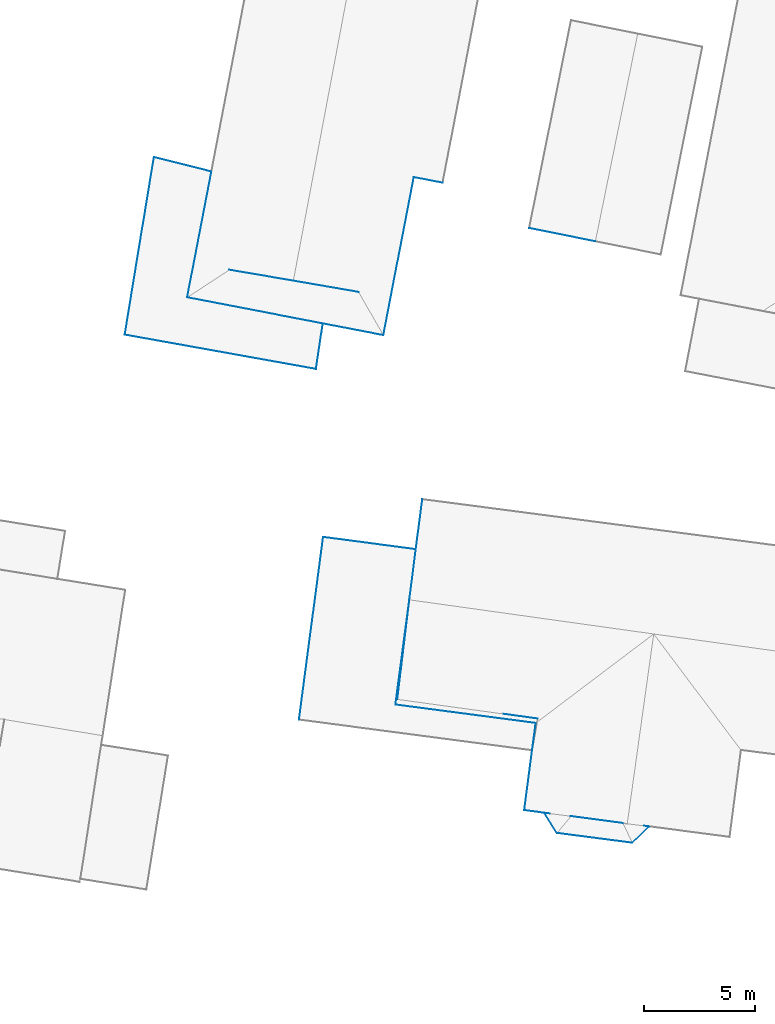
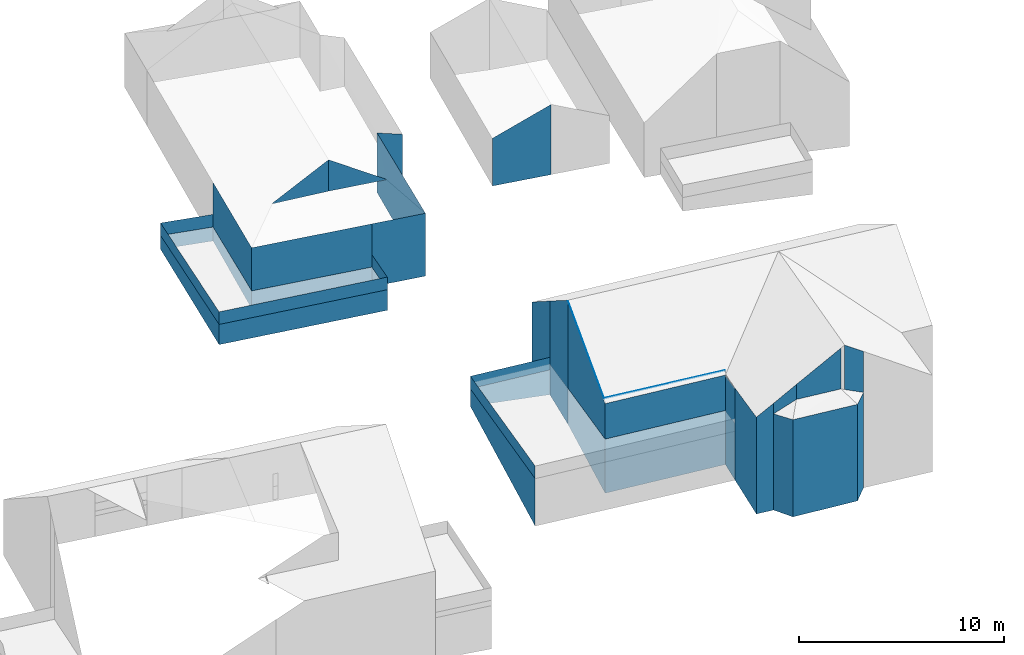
# Not in any storey, part 29 of 57: 47 walls.
"""IFC4 building model written with IfcOpenShell, lengths in metres."""

from ifc_helpers import new_model, entity, si_unit, converted_unit, origin, place, context, subcontext, project, spatial, face_set, surface_model, element, save


model = new_model("IFC4")

# Units and contexts
model_context = context("Model", 3, precision=1e-05, world=origin())
body_context = subcontext(model_context, "Body", "Model", "MODEL_VIEW")
ifc_project = project(units=[converted_unit("PLANEANGLEUNIT", "DEGREE", entity("IfcRatioMeasure", 0.0174532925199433), si_unit("PLANEANGLEUNIT", "RADIAN"), dimensions=[0, 0, 0, 0, 0, 0, 0]), si_unit("AREAUNIT", "SQUARE_METRE"), si_unit("LENGTHUNIT", "METRE")], contexts=[model_context])

# Site, building
site_placement = place(None, origin())
site = spatial("IfcSite", under=ifc_project, at=site_placement, Name="_site")
building_1_placement = place(site_placement, origin())
building_1 = spatial("IfcBuilding", under=site, at=building_1_placement, Name="_building")

# Walls
wall_1_placement = place(building_1_placement, origin())
element("IfcWall", 1, at=wall_1_placement, inside=building_1, Name="Wall", PredefinedType="NOTDEFINED", context=body_context, shape_type="SurfaceModel", body=[
    surface_model("IfcFaceBasedSurfaceModel", [(227.5, 92.046, 112.511), (233.794, 91.179, 112.486), (233.794, 91.179, 112.466), (227.5, 92.046, 112.478)], [face_set([[[0, 1, 2, 3]]])]),
])
wall_2_placement = place(building_1_placement, origin())
element("IfcWall", 2, at=wall_2_placement, inside=building_1, Name="Wall", PredefinedType="NOTDEFINED", context=body_context, shape_type="SurfaceModel", body=[
    surface_model("IfcFaceBasedSurfaceModel", [(228.039, 96.515, 115.44), (227.5, 92.046, 112.511), (227.5, 92.046, 112.478)], [face_set([[[0, 1, 2]]])]),
])
wall_3_placement = place(building_1_placement, origin())
element("IfcWall", 3, at=wall_3_placement, inside=building_1, Name="Wall", PredefinedType="NOTDEFINED", context=body_context, shape_type="SurfaceModel", body=[
    surface_model("IfcFaceBasedSurfaceModel", [(227.414, 91.808, 112.35), (228.039, 96.515, 115.44), (228.039, 96.515, 108.05), (227.414, 91.808, 107.018)], [face_set([[[0, 1, 2, 3]]])]),
])
wall_4_placement = place(building_1_placement, origin())
element("IfcWall", 4, at=wall_4_placement, inside=building_1, Name="Wall", PredefinedType="NOTDEFINED", context=body_context, shape_type="SurfaceModel", body=[
    surface_model("IfcFaceBasedSurfaceModel", [(233.709, 90.98, 112.35), (227.414, 91.808, 112.35), (227.414, 91.808, 107.018), (233.709, 90.98, 107.025)], [face_set([[[0, 1, 2, 3]]])]),
])
wall_5_placement = place(building_1_placement, origin())
element("IfcWall", 5, at=wall_5_placement, inside=building_1, Name="Wall", PredefinedType="NOTDEFINED", context=body_context, shape_type="SurfaceModel", body=[
    surface_model("IfcFaceBasedSurfaceModel", [(233.709, 90.98, 110.24), (233.55, 89.753, 110.25), (233.55, 89.753, 106.893), (233.709, 90.98, 107.025)], [face_set([[[0, 1, 2, 3]]])]),
])
wall_6_placement = place(building_1_placement, origin())
element("IfcWall", 6, at=wall_6_placement, inside=building_1, Name="Wall", PredefinedType="NOTDEFINED", context=body_context, shape_type="SurfaceModel", body=[
    surface_model("IfcFaceBasedSurfaceModel", [(227.414, 91.808, 110.24), (233.709, 90.98, 110.24), (233.709, 90.98, 107.025), (227.414, 91.808, 107.018)], [face_set([[[0, 1, 2, 3]]])]),
])
wall_7_placement = place(building_1_placement, origin())
element("IfcWall", 7, at=wall_7_placement, inside=building_1, Name="Wall", PredefinedType="NOTDEFINED", context=body_context, shape_type="SurfaceModel", body=[
    surface_model("IfcFaceBasedSurfaceModel", [(228.039, 96.515, 110.193), (227.414, 91.808, 110.24), (227.414, 91.808, 107.018), (228.039, 96.515, 108.05)], [face_set([[[0, 1, 2, 3]]])]),
])
wall_8_placement = place(building_1_placement, origin())
element("IfcWall", 8, at=wall_8_placement, inside=building_1, Name="Wall", PredefinedType="NOTDEFINED", context=body_context, shape_type="SurfaceModel", body=[
    surface_model("IfcFaceBasedSurfaceModel", [(228.328, 98.781, 110.17), (228.039, 96.515, 110.193), (228.039, 96.515, 108.05), (228.328, 98.781, 108.338)], [face_set([[[0, 1, 2, 3]]])]),
])
wall_9_placement = place(building_1_placement, origin())
element("IfcWall", 9, at=wall_9_placement, inside=building_1, Name="Wall", PredefinedType="NOTDEFINED", context=body_context, shape_type="SurfaceModel", body=[
    surface_model("IfcFaceBasedSurfaceModel", [(224.168, 99.329, 110.17), (228.328, 98.781, 110.17), (228.328, 98.781, 108.338), (224.168, 99.329, 108.772)], [face_set([[[0, 1, 2, 3]]])]),
])
wall_10_placement = place(building_1_placement, origin())
element("IfcWall", 10, at=wall_10_placement, inside=building_1, Name="Wall", PredefinedType="NOTDEFINED", context=body_context, shape_type="SurfaceModel", body=[
    surface_model("IfcFaceBasedSurfaceModel", [(223.086, 91.129, 110.17), (224.168, 99.329, 110.17), (224.168, 99.329, 108.772), (223.086, 91.129, 106.988)], [face_set([[[0, 1, 2, 3]]])]),
])
wall_11_placement = place(building_1_placement, origin())
element("IfcWall", 11, at=wall_11_placement, inside=building_1, Name="Wall", PredefinedType="NOTDEFINED", context=body_context, shape_type="SurfaceModel", body=[
    surface_model("IfcFaceBasedSurfaceModel", [(233.55, 89.753, 112.36), (233.709, 90.98, 112.35), (233.709, 90.98, 107.025), (233.55, 89.753, 106.893)], [face_set([[[0, 1, 2, 3]]])]),
])
wall_12_placement = place(building_1_placement, origin())
element("IfcWall", 12, at=wall_12_placement, inside=building_1, Name="Wall", PredefinedType="NOTDEFINED", context=body_context, shape_type="SurfaceModel", body=[
    surface_model("IfcFaceBasedSurfaceModel", [(224.168, 99.329, 109.81), (223.086, 91.129, 109.81), (223.086, 91.129, 110.56), (224.168, 99.329, 110.56)], [face_set([[[0, 1, 2, 3]]])]),
])
wall_13_placement = place(building_1_placement, origin())
element("IfcWall", 13, at=wall_13_placement, inside=building_1, Name="Wall", PredefinedType="NOTDEFINED", context=body_context, shape_type="SurfaceModel", body=[
    surface_model("IfcFaceBasedSurfaceModel", [(228.328, 98.781, 109.81), (224.168, 99.329, 109.81), (224.168, 99.329, 110.56), (228.328, 98.781, 110.56)], [face_set([[[0, 1, 2, 3]]])]),
])
wall_14_placement = place(building_1_placement, origin())
element("IfcWall", 14, at=wall_14_placement, inside=building_1, Name="Wall", PredefinedType="NOTDEFINED", context=body_context, shape_type="SurfaceModel", body=[
    surface_model("IfcFaceBasedSurfaceModel", [(224.168, 99.329, 109.81), (223.086, 91.129, 109.81), (223.086, 91.129, 110.56), (224.168, 99.329, 110.56)], [face_set([[[0, 1, 2, 3]]])]),
])
wall_15_placement = place(building_1_placement, origin())
element("IfcWall", 15, at=wall_15_placement, inside=building_1, Name="Wall", PredefinedType="NOTDEFINED", context=body_context, shape_type="SurfaceModel", body=[
    surface_model("IfcFaceBasedSurfaceModel", [(228.328, 98.781, 109.81), (224.168, 99.329, 109.81), (224.168, 99.329, 110.56), (228.328, 98.781, 110.56)], [face_set([[[0, 1, 2, 3]]])]),
])

# Building
building_2_placement = place(site_placement, origin())
building_2 = spatial("IfcBuilding", under=site, at=building_2_placement, Name="_building")

# Walls
wall_16_placement = place(building_2_placement, origin())
element("IfcWall", 16, at=wall_16_placement, inside=building_2, Name="Wall", PredefinedType="NOTDEFINED", context=body_context, shape_type="SurfaceModel", body=[
    surface_model("IfcFaceBasedSurfaceModel", [(229.534, 115.233, 113.44), (228.239, 115.484, 113.82), (228.239, 115.484, 110.283), (229.534, 115.233, 110.276)], [face_set([[[0, 1, 2, 3]]])]),
])
wall_17_placement = place(building_2_placement, origin())
element("IfcWall", 17, at=wall_17_placement, inside=building_2, Name="Wall", PredefinedType="NOTDEFINED", context=body_context, shape_type="SurfaceModel", body=[
    surface_model("IfcFaceBasedSurfaceModel", [(218.066, 110.088, 113.82), (219.152, 115.735, 113.905), (219.152, 115.735, 110.419), (218.066, 110.088, 110.194)], [face_set([[[0, 1, 2, 3]]])]),
])
wall_18_placement = place(building_2_placement, origin())
element("IfcWall", 18, at=wall_18_placement, inside=building_2, Name="Wall", PredefinedType="NOTDEFINED", context=body_context, shape_type="SurfaceModel", body=[
    surface_model("IfcFaceBasedSurfaceModel", [(226.872, 108.391, 113.82), (224.153, 108.915, 113.82), (224.153, 108.915, 110.083), (226.872, 108.391, 110.079)], [face_set([[[0, 1, 2, 3]]])]),
])
wall_19_placement = place(building_2_placement, origin())
element("IfcWall", 19, at=wall_19_placement, inside=building_2, Name="Wall", PredefinedType="NOTDEFINED", context=body_context, shape_type="SurfaceModel", body=[
    surface_model("IfcFaceBasedSurfaceModel", [(225.757, 110.328, 115.07), (222.827, 110.835, 116.94), (222.827, 110.835, 115.07), (225.757, 110.328, 115.02)], [face_set([[[0, 1, 2, 3]]])]),
])
wall_20_placement = place(building_2_placement, origin())
element("IfcWall", 20, at=wall_20_placement, inside=building_2, Name="Wall", PredefinedType="NOTDEFINED", context=body_context, shape_type="SurfaceModel", body=[
    surface_model("IfcFaceBasedSurfaceModel", [(216.573, 116.387, 111.25), (219.152, 115.735, 111.25), (219.152, 115.735, 110.419), (216.573, 116.387, 110.433)], [face_set([[[0, 1, 2, 3]]])]),
])
wall_21_placement = place(building_2_placement, origin())
element("IfcWall", 21, at=wall_21_placement, inside=building_2, Name="Wall", PredefinedType="NOTDEFINED", context=body_context, shape_type="SurfaceModel", body=[
    surface_model("IfcFaceBasedSurfaceModel", [(218.066, 110.088, 111.25), (224.153, 108.915, 111.25), (224.153, 108.915, 110.083), (218.066, 110.088, 110.194)], [face_set([[[0, 1, 2, 3]]])]),
])
wall_22_placement = place(building_2_placement, origin())
element("IfcWall", 22, at=wall_22_placement, inside=building_2, Name="Wall", PredefinedType="NOTDEFINED", context=body_context, shape_type="SurfaceModel", body=[
    surface_model("IfcFaceBasedSurfaceModel", [(224.153, 108.915, 111.25), (223.845, 106.871, 111.25), (223.845, 106.871, 110.025), (224.153, 108.915, 110.083)], [face_set([[[0, 1, 2, 3]]])]),
])
wall_23_placement = place(building_2_placement, origin())
element("IfcWall", 23, at=wall_23_placement, inside=building_2, Name="Wall", PredefinedType="NOTDEFINED", context=body_context, shape_type="SurfaceModel", body=[
    surface_model("IfcFaceBasedSurfaceModel", [(228.239, 115.484, 113.82), (226.872, 108.391, 113.82), (226.872, 108.391, 110.079), (228.239, 115.484, 110.283)], [face_set([[[0, 1, 2, 3]]])]),
])
wall_24_placement = place(building_2_placement, origin())
element("IfcWall", 24, at=wall_24_placement, inside=building_2, Name="Wall", PredefinedType="NOTDEFINED", context=body_context, shape_type="SurfaceModel", body=[
    surface_model("IfcFaceBasedSurfaceModel", [(215.265, 108.413, 111.25), (216.573, 116.387, 111.25), (216.573, 116.387, 110.433), (215.265, 108.413, 110.047)], [face_set([[[0, 1, 2, 3]]])]),
])
wall_25_placement = place(building_2_placement, origin())
element("IfcWall", 25, at=wall_25_placement, inside=building_2, Name="Wall", PredefinedType="NOTDEFINED", context=body_context, shape_type="SurfaceModel", body=[
    surface_model("IfcFaceBasedSurfaceModel", [(219.152, 115.735, 111.25), (218.066, 110.088, 111.25), (218.066, 110.088, 110.194), (219.152, 115.735, 110.419)], [face_set([[[0, 1, 2, 3]]])]),
])
wall_26_placement = place(building_2_placement, origin())
element("IfcWall", 26, at=wall_26_placement, inside=building_2, Name="Wall", PredefinedType="NOTDEFINED", context=body_context, shape_type="SurfaceModel", body=[
    surface_model("IfcFaceBasedSurfaceModel", [(224.153, 108.915, 113.82), (218.066, 110.088, 113.82), (218.066, 110.088, 110.194), (224.153, 108.915, 110.083)], [face_set([[[0, 1, 2, 3]]])]),
])
wall_27_placement = place(building_2_placement, origin())
element("IfcWall", 27, at=wall_27_placement, inside=building_2, Name="Wall", PredefinedType="NOTDEFINED", context=body_context, shape_type="SurfaceModel", body=[
    surface_model("IfcFaceBasedSurfaceModel", [(223.845, 106.871, 111.25), (215.265, 108.413, 111.25), (215.265, 108.413, 110.047), (223.845, 106.871, 110.025)], [face_set([[[0, 1, 2, 3]]])]),
])
wall_28_placement = place(building_2_placement, origin())
element("IfcWall", 28, at=wall_28_placement, inside=building_2, Name="Wall", PredefinedType="NOTDEFINED", context=body_context, shape_type="SurfaceModel", body=[
    surface_model("IfcFaceBasedSurfaceModel", [(222.827, 110.835, 116.94), (219.956, 111.325, 115.07), (219.956, 111.325, 115.02), (222.827, 110.835, 115.07)], [face_set([[[0, 1, 2, 3]]])]),
])
wall_29_placement = place(building_2_placement, origin())
element("IfcWall", 29, at=wall_29_placement, inside=building_2, Name="Wall", PredefinedType="NOTDEFINED", context=body_context, shape_type="SurfaceModel", body=[
    surface_model("IfcFaceBasedSurfaceModel", [(215.265, 108.413, 111.25), (216.573, 116.387, 111.25), (216.573, 116.387, 112.0), (215.265, 108.413, 112.0)], [face_set([[[0, 1, 2, 3]]])]),
])
wall_30_placement = place(building_2_placement, origin())
element("IfcWall", 30, at=wall_30_placement, inside=building_2, Name="Wall", PredefinedType="NOTDEFINED", context=body_context, shape_type="SurfaceModel", body=[
    surface_model("IfcFaceBasedSurfaceModel", [(224.153, 108.915, 111.25), (223.845, 106.871, 111.25), (223.845, 106.871, 112.0), (224.153, 108.915, 112.0)], [face_set([[[0, 1, 2, 3]]])]),
])
wall_31_placement = place(building_2_placement, origin())
element("IfcWall", 31, at=wall_31_placement, inside=building_2, Name="Wall", PredefinedType="NOTDEFINED", context=body_context, shape_type="SurfaceModel", body=[
    surface_model("IfcFaceBasedSurfaceModel", [(216.573, 116.387, 111.25), (219.152, 115.735, 111.25), (219.152, 115.735, 112.0), (216.573, 116.387, 112.0)], [face_set([[[0, 1, 2, 3]]])]),
])
wall_32_placement = place(building_2_placement, origin())
element("IfcWall", 32, at=wall_32_placement, inside=building_2, Name="Wall", PredefinedType="NOTDEFINED", context=body_context, shape_type="SurfaceModel", body=[
    surface_model("IfcFaceBasedSurfaceModel", [(223.845, 106.871, 111.25), (215.265, 108.413, 111.25), (215.265, 108.413, 112.0), (223.845, 106.871, 112.0)], [face_set([[[0, 1, 2, 3]]])]),
])
wall_33_placement = place(building_2_placement, origin())
element("IfcWall", 33, at=wall_33_placement, inside=building_2, Name="Wall", PredefinedType="NOTDEFINED", context=body_context, shape_type="SurfaceModel", body=[
    surface_model("IfcFaceBasedSurfaceModel", [(216.573, 116.387, 111.25), (219.152, 115.735, 111.25), (219.152, 115.735, 112.0), (216.573, 116.387, 112.0)], [face_set([[[0, 1, 2, 3]]])]),
])
wall_34_placement = place(building_2_placement, origin())
element("IfcWall", 34, at=wall_34_placement, inside=building_2, Name="Wall", PredefinedType="NOTDEFINED", context=body_context, shape_type="SurfaceModel", body=[
    surface_model("IfcFaceBasedSurfaceModel", [(215.265, 108.413, 111.25), (216.573, 116.387, 111.25), (216.573, 116.387, 112.0), (215.265, 108.413, 112.0)], [face_set([[[0, 1, 2, 3]]])]),
])
wall_35_placement = place(building_2_placement, origin())
element("IfcWall", 35, at=wall_35_placement, inside=building_2, Name="Wall", PredefinedType="NOTDEFINED", context=body_context, shape_type="SurfaceModel", body=[
    surface_model("IfcFaceBasedSurfaceModel", [(224.153, 108.915, 111.25), (223.845, 106.871, 111.25), (223.845, 106.871, 112.0), (224.153, 108.915, 112.0)], [face_set([[[0, 1, 2, 3]]])]),
])
wall_36_placement = place(building_2_placement, origin())
element("IfcWall", 36, at=wall_36_placement, inside=building_2, Name="Wall", PredefinedType="NOTDEFINED", context=body_context, shape_type="SurfaceModel", body=[
    surface_model("IfcFaceBasedSurfaceModel", [(223.845, 106.871, 111.25), (215.265, 108.413, 111.25), (215.265, 108.413, 112.0), (223.845, 106.871, 112.0)], [face_set([[[0, 1, 2, 3]]])]),
])

# Building
building_3_placement = place(site_placement, origin())
building_3 = spatial("IfcBuilding", under=site, at=building_3_placement, Name="_building")

# Walls
wall_37_placement = place(building_3_placement, origin())
element("IfcWall", 37, at=wall_37_placement, inside=building_3, Name="Wall", PredefinedType="NOTDEFINED", context=body_context, shape_type="SurfaceModel", body=[
    surface_model("IfcFaceBasedSurfaceModel", [(228.039, 96.515, 115.44), (228.328, 98.781, 113.91), (228.328, 98.781, 108.338), (228.039, 96.515, 108.05)], [face_set([[[0, 1, 2, 3]]])]),
])
wall_38_placement = place(building_3_placement, origin())
element("IfcWall", 38, at=wall_38_placement, inside=building_3, Name="Wall", PredefinedType="NOTDEFINED", context=body_context, shape_type="SurfaceModel", body=[
    surface_model("IfcFaceBasedSurfaceModel", [(238.046, 85.605, 112.35), (234.664, 86.045, 112.35), (234.664, 86.045, 106.566), (238.046, 85.605, 106.601)], [face_set([[[0, 1, 2, 3]]])]),
])
wall_39_placement = place(building_3_placement, origin())
element("IfcWall", 39, at=wall_39_placement, inside=building_3, Name="Wall", PredefinedType="NOTDEFINED", context=body_context, shape_type="SurfaceModel", body=[
    surface_model("IfcFaceBasedSurfaceModel", [(238.803, 86.338, 112.35), (238.046, 85.605, 112.35), (238.046, 85.605, 106.601), (238.803, 86.338, 106.667)], [face_set([[[0, 1, 2, 3]]])]),
])
wall_40_placement = place(building_3_placement, origin())
element("IfcWall", 40, at=wall_40_placement, inside=building_3, Name="Wall", PredefinedType="NOTDEFINED", context=body_context, shape_type="SurfaceModel", body=[
    surface_model("IfcFaceBasedSurfaceModel", [(234.664, 86.045, 112.35), (234.095, 86.949, 112.35), (234.095, 86.949, 106.625), (234.664, 86.045, 106.566)], [face_set([[[0, 1, 2, 3]]])]),
])
wall_41_placement = place(building_3_placement, origin())
element("IfcWall", 41, at=wall_41_placement, inside=building_3, Name="Wall", PredefinedType="NOTDEFINED", context=body_context, shape_type="SurfaceModel", body=[
    surface_model("IfcFaceBasedSurfaceModel", [(238.803, 86.338, 114.79), (237.816, 86.461, 115.44), (237.816, 86.461, 112.794), (238.803, 86.338, 112.35)], [face_set([[[0, 1, 2, 3]]])]),
])
wall_42_placement = place(building_3_placement, origin())
element("IfcWall", 42, at=wall_42_placement, inside=building_3, Name="Wall", PredefinedType="NOTDEFINED", context=body_context, shape_type="SurfaceModel", body=[
    surface_model("IfcFaceBasedSurfaceModel", [(228.328, 98.781, 113.91), (228.621, 101.025, 112.39), (228.621, 101.025, 108.623), (228.328, 98.781, 108.338)], [face_set([[[0, 1, 2, 3]]])]),
])
wall_43_placement = place(building_3_placement, origin())
element("IfcWall", 43, at=wall_43_placement, inside=building_3, Name="Wall", PredefinedType="NOTDEFINED", context=body_context, shape_type="SurfaceModel", body=[
    surface_model("IfcFaceBasedSurfaceModel", [(237.626, 86.486, 115.314), (235.292, 86.801, 113.77), (235.292, 86.801, 112.88), (237.626, 86.486, 112.88)], [face_set([[[0, 1, 2, 3]]])]),
])
wall_44_placement = place(building_3_placement, origin())
element("IfcWall", 44, at=wall_44_placement, inside=building_3, Name="Wall", PredefinedType="NOTDEFINED", context=body_context, shape_type="SurfaceModel", body=[
    surface_model("IfcFaceBasedSurfaceModel", [(233.197, 87.07, 112.39), (233.55, 89.753, 112.36), (233.55, 89.753, 106.893), (233.197, 87.07, 106.633)], [face_set([[[0, 1, 2, 3]]])]),
])
wall_45_placement = place(building_3_placement, origin())
element("IfcWall", 45, at=wall_45_placement, inside=building_3, Name="Wall", PredefinedType="NOTDEFINED", context=body_context, shape_type="SurfaceModel", body=[
    surface_model("IfcFaceBasedSurfaceModel", [(234.095, 86.949, 112.98), (233.197, 87.07, 112.39), (233.197, 87.07, 106.633), (234.095, 86.949, 106.625)], [face_set([[[0, 1, 2, 3]]])]),
])
wall_46_placement = place(building_3_placement, origin())
element("IfcWall", 46, at=wall_46_placement, inside=building_3, Name="Wall", PredefinedType="NOTDEFINED", context=body_context, shape_type="SurfaceModel", body=[
    surface_model("IfcFaceBasedSurfaceModel", [(235.292, 86.801, 113.77), (234.095, 86.949, 112.98), (234.095, 86.949, 112.35), (235.292, 86.801, 112.88)], [face_set([[[0, 1, 2, 3]]])]),
])

# Building
building_4_placement = place(site_placement, origin())
building_4 = spatial("IfcBuilding", under=site, at=building_4_placement, Name="_building")

# Wall
wall_47_placement = place(building_4_placement, origin())
element("IfcWall", 47, at=wall_47_placement, inside=building_4, Name="Wall", PredefinedType="NOTDEFINED", context=body_context, shape_type="SurfaceModel", body=[
    surface_model("IfcFaceBasedSurfaceModel", [(236.386, 112.601, 114.42), (233.419, 113.201, 113.07), (233.419, 113.201, 110.234), (236.386, 112.601, 110.238)], [face_set([[[0, 1, 2, 3]]])]),
])

save(model, "model.ifc")
